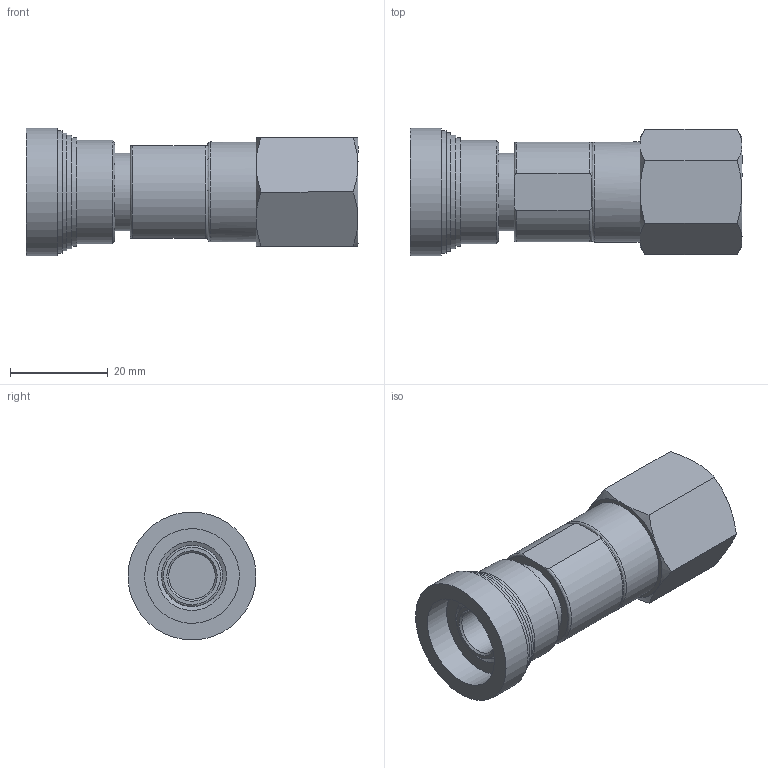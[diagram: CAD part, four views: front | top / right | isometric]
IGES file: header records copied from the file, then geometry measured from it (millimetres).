
Global section: file name: SQC2B-F6N; native system: Autodesk Inventor 2016; preprocessor: unknown; author: 이승민,,11,0; organization: 20170206.121109; date: 20170209.081426; units: millimetre
Bounding box: 68.05 x 26.2 x 26.18 mm (x, y, z)
Volume: 20608.4 mm3; surface area: 7743.4 mm2
Topology: 1 solids, 1 shells, 63 faces, 158 edges, 111 vertices
Faces by surface type: bspline 63
